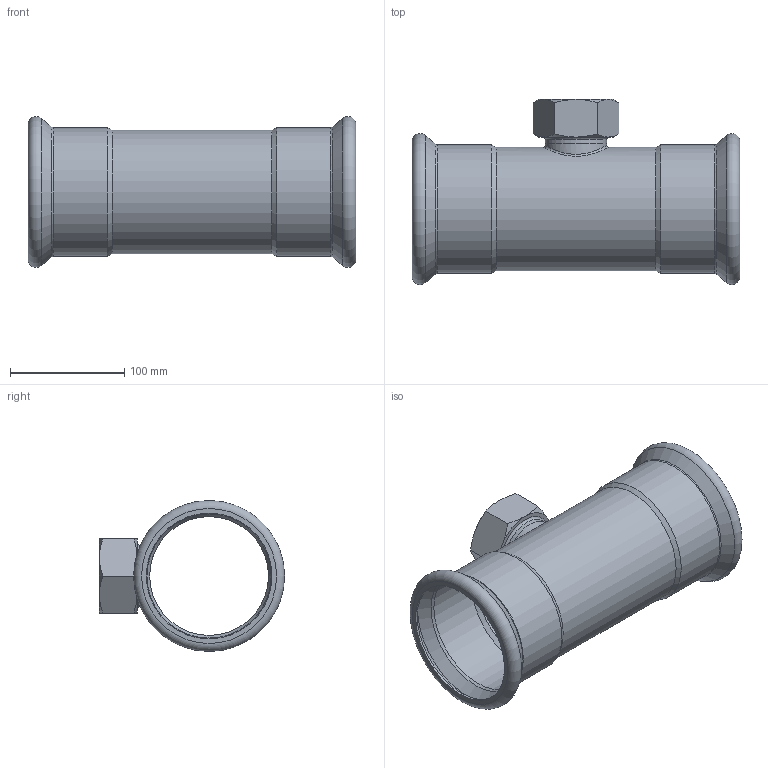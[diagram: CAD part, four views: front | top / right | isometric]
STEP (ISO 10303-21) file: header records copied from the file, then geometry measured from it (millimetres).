
FILE_DESCRIPTION((''),'2;1');
FILE_NAME('G:\Nirosan-Schmiedefeld\Technics\CAD\Bauteile VA\108\69130G1082108(1).stp','2009-05-08T09:49:15',('herberg'),(''),'Autodesk Inventor 2009','Autodesk Inventor 2009','');
FILE_SCHEMA(('AUTOMOTIVE_DESIGN { 1 0 10303 214 1 1 1 1 }'));
Length unit declared in the file: millimetre
Products named in the file (3): 69130G1082108(1); LM_6913010854108(0); IG542(1)
Assembly tree (2 placements, depth 2):
  69130G1082108(1)
    LM_6913010854108(0)
    IG542(1)
Bounding box: 287 x 162.1 x 132.2 mm (x, y, z)
Volume: 252405.8 mm3; surface area: 231510.7 mm2
Topology: 2 solids, 2 shells, 60 faces, 125 edges, 73 vertices
Faces by surface type: cone 21, plane 14, cylinder 11, bspline 10, torus 4
Full cylindrical faces by diameter (mm): 50 x1, 54 x2, 104 x1, 108 x1, 108.7 x2, 110 x2, 112.7 x2
Entity records: 3091 total; most frequent: CARTESIAN_POINT 1977, DIRECTION 218, ORIENTED_EDGE 172, AXIS2_PLACEMENT_3D 106, EDGE_LOOP 102, EDGE_CURVE 86, VERTEX_POINT 66, FACE_OUTER_BOUND 60
